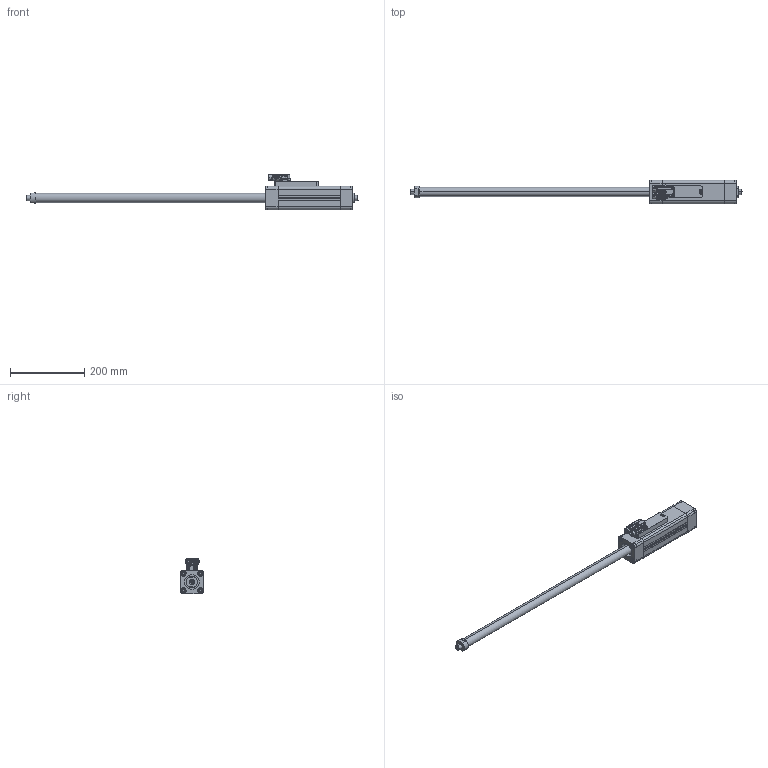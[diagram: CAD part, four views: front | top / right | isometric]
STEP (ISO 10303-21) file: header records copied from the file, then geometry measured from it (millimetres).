
FILE_DESCRIPTION(('STEP AP214'),'1');
FILE_NAME('ETT050S2CSGN0630C.stp','2015-01-30T09:33:59',(' '),(' '),'Spatial InterOp 3D',' ',' ');
FILE_SCHEMA(('automotive_design'));
Length unit declared in the file: millimetre
Products named in the file (19): ETT050S2CSGN0630C; ETH050 2 finto; TAPPO NORMALE; TAPPO; Scatola; Vite M3 lunga; Connettore doppio originale; Vite M3scheda -tappo; cuscinetto; viti parker; riempitivo; Slider FINTO F-F
Assembly tree (28 placements, depth 2):
  ETT050S2CSGN0630C
    ETH050 2 finto
    TAPPO NORMALE
    TAPPO
    Scatola
    Vite M3 lunga  x4
    Connettore doppio originale
    Vite M3scheda -tappo  x4
    cuscinetto  x2
    viti parker
    viti parker
    viti parker
    viti parker
    viti parker
    viti parker
    viti parker
    viti parker
    riempitivo  x4
    Slider FINTO F-F
Bounding box: 897 x 63.85 x 96.95 mm (x, y, z)
Volume: 1078276.2 mm3; surface area: 308216.5 mm2
Topology: 27 solids, 1850 shells, 2457 faces, 10832 edges, 10278 vertices
Faces by surface type: cylinder 1008, plane 698, bspline 283, torus 262, cone 95, extrusion 68, sphere 43
Entity records: 152921 total; most frequent: CARTESIAN_POINT 61375, DIRECTION 15386, ORIENTED_EDGE 10795, EDGE_CURVE 9936, VERTEX_POINT 9652, AXIS2_PLACEMENT_3D 6027, CIRCLE 3908, VECTOR 3332
